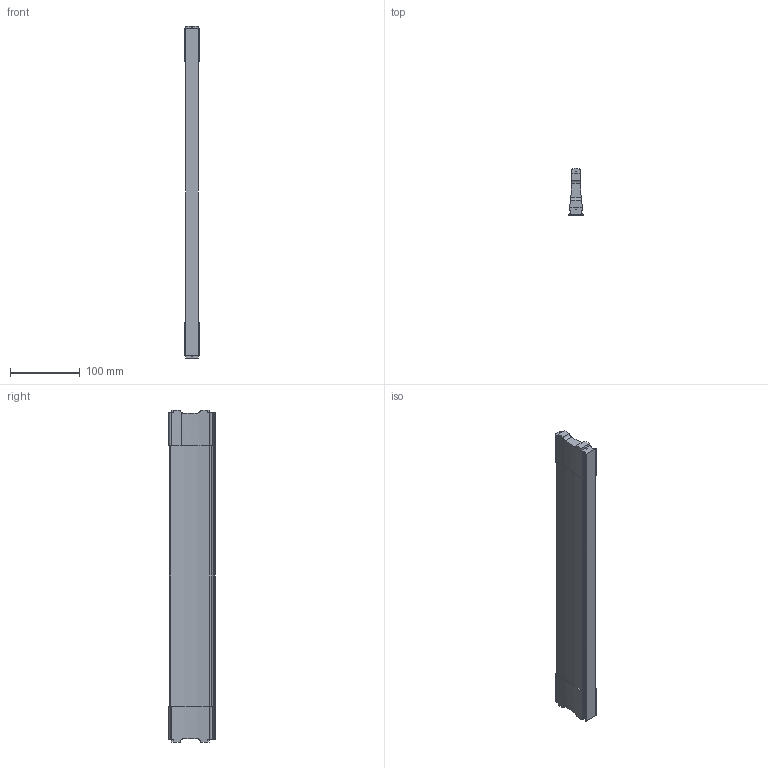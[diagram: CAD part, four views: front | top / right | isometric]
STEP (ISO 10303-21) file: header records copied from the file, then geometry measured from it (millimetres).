
FILE_DESCRIPTION (( 'STEP AP214' ), '1' );
FILE_NAME ('Traverse DWD XP NL500 Mass X468,4.step', '2010-09-21T13:16:39', ( 'grass' ), ( '' ), 'SwSTEP 2.0', 'SolidWorks 2010', '' );
FILE_SCHEMA (( 'AUTOMOTIVE_DESIGN' ));
Length unit declared in the file: millimetre
Products named in the file (1): Traverse DWD XP NL500 Mass X468,4
Bounding box: 21.4 x 67.5 x 477.4 mm (x, y, z)
Volume: 398875.8 mm3; surface area: 83319.4 mm2
Topology: 1 solids, 1 shells, 125 faces, 369 edges, 246 vertices
Faces by surface type: cylinder 68, plane 57
Entity records: 4377 total; most frequent: CARTESIAN_POINT 879, DIRECTION 753, ORIENTED_EDGE 738, EDGE_CURVE 369, AXIS2_PLACEMENT_3D 268, VERTEX_POINT 246, VECTOR 217, LINE 217
